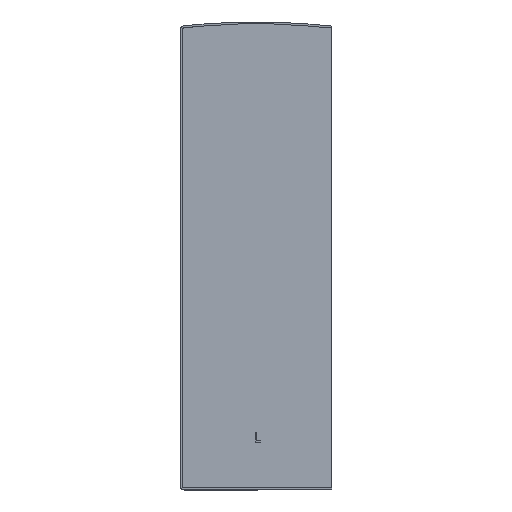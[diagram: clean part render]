
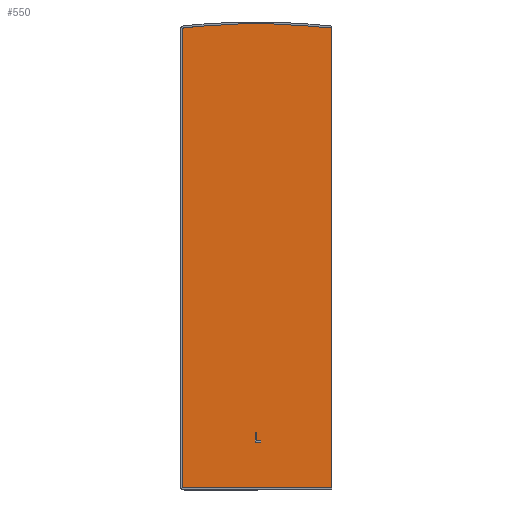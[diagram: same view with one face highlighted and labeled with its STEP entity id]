
A CAD part, top view. The second image highlights one B-rep face of the part: STEP entity #550.
In plain terms, the highlighted planar face has unit normal (0, 0, 1).
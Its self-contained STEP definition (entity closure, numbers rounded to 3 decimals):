
#14=FACE_BOUND('',#78,.T.);
#23=CIRCLE('',#600,304.053);
#31=CIRCLE('',#613,1.);
#32=CIRCLE('',#614,1.);
#48=FACE_OUTER_BOUND('',#77,.T.);
#77=EDGE_LOOP('',(#436,#437,#438,#439,#440,#441,#442,#443));
#78=EDGE_LOOP('',(#444,#445,#446,#447,#448,#449));
#98=LINE('',#795,#164);
#101=LINE('',#800,#167);
#103=LINE('',#804,#169);
#105=LINE('',#808,#171);
#107=LINE('',#812,#173);
#109=LINE('',#815,#175);
#126=LINE('',#856,#192);
#140=LINE('',#900,#206);
#141=LINE('',#902,#207);
#142=LINE('',#903,#208);
#143=LINE('',#907,#209);
#164=VECTOR('',#640,10.);
#167=VECTOR('',#645,10.);
#169=VECTOR('',#649,10.);
#171=VECTOR('',#653,10.);
#173=VECTOR('',#657,10.);
#175=VECTOR('',#661,10.);
#192=VECTOR('',#694,10.);
#206=VECTOR('',#730,10.);
#207=VECTOR('',#731,10.);
#208=VECTOR('',#732,10.);
#209=VECTOR('',#735,10.);
#230=VERTEX_POINT('',#793);
#231=VERTEX_POINT('',#794);
#232=VERTEX_POINT('',#799);
#233=VERTEX_POINT('',#803);
#234=VERTEX_POINT('',#807);
#235=VERTEX_POINT('',#811);
#248=VERTEX_POINT('',#846);
#249=VERTEX_POINT('',#848);
#251=VERTEX_POINT('',#854);
#269=VERTEX_POINT('',#898);
#270=VERTEX_POINT('',#899);
#271=VERTEX_POINT('',#901);
#272=VERTEX_POINT('',#904);
#273=VERTEX_POINT('',#906);
#282=EDGE_CURVE('',#230,#231,#98,.T.);
#285=EDGE_CURVE('',#231,#232,#101,.T.);
#287=EDGE_CURVE('',#232,#233,#103,.T.);
#289=EDGE_CURVE('',#233,#234,#105,.T.);
#291=EDGE_CURVE('',#234,#235,#107,.T.);
#293=EDGE_CURVE('',#235,#230,#109,.T.);
#309=EDGE_CURVE('',#248,#249,#23,.T.);
#313=EDGE_CURVE('',#251,#248,#126,.T.);
#334=EDGE_CURVE('',#269,#270,#140,.T.);
#335=EDGE_CURVE('',#271,#269,#141,.T.);
#336=EDGE_CURVE('',#249,#271,#142,.T.);
#337=EDGE_CURVE('',#272,#251,#31,.T.);
#338=EDGE_CURVE('',#273,#272,#143,.T.);
#339=EDGE_CURVE('',#270,#273,#32,.T.);
#436=ORIENTED_EDGE('',*,*,#334,.F.);
#437=ORIENTED_EDGE('',*,*,#335,.F.);
#438=ORIENTED_EDGE('',*,*,#336,.F.);
#439=ORIENTED_EDGE('',*,*,#309,.F.);
#440=ORIENTED_EDGE('',*,*,#313,.F.);
#441=ORIENTED_EDGE('',*,*,#337,.F.);
#442=ORIENTED_EDGE('',*,*,#338,.F.);
#443=ORIENTED_EDGE('',*,*,#339,.F.);
#444=ORIENTED_EDGE('',*,*,#282,.T.);
#445=ORIENTED_EDGE('',*,*,#285,.T.);
#446=ORIENTED_EDGE('',*,*,#287,.T.);
#447=ORIENTED_EDGE('',*,*,#289,.T.);
#448=ORIENTED_EDGE('',*,*,#291,.T.);
#449=ORIENTED_EDGE('',*,*,#293,.T.);
#524=PLANE('',#612);
#550=ADVANCED_FACE('',(#48,#14),#524,.F.);
#600=AXIS2_PLACEMENT_3D('',#849,#687,#688);
#612=AXIS2_PLACEMENT_3D('',#897,#728,#729);
#613=AXIS2_PLACEMENT_3D('',#905,#733,#734);
#614=AXIS2_PLACEMENT_3D('',#908,#736,#737);
#640=DIRECTION('',(0.,-1.,0.));
#645=DIRECTION('',(-1.,0.,0.));
#649=DIRECTION('',(0.,1.,0.));
#653=DIRECTION('',(1.,0.,0.));
#657=DIRECTION('',(0.,-1.,0.));
#661=DIRECTION('',(1.,0.,0.));
#687=DIRECTION('center_axis',(0.,0.,-1.));
#688=DIRECTION('ref_axis',(-0.087,-0.996,0.));
#694=DIRECTION('',(0.996,0.087,0.));
#728=DIRECTION('center_axis',(0.,0.,-1.));
#729=DIRECTION('ref_axis',(-1.,0.,0.));
#730=DIRECTION('',(-1.,0.,0.));
#731=DIRECTION('',(0.,-1.,0.));
#732=DIRECTION('',(0.996,-0.087,0.));
#733=DIRECTION('center_axis',(0.,0.,-1.));
#734=DIRECTION('ref_axis',(0.087,-0.996,0.));
#735=DIRECTION('',(0.,1.,0.));
#736=DIRECTION('center_axis',(0.,0.,-1.));
#737=DIRECTION('ref_axis',(1.,0.,0.));
#793=CARTESIAN_POINT('',(2.404,24.592,0.));
#794=CARTESIAN_POINT('',(2.404,24.,0.));
#795=CARTESIAN_POINT('',(2.404,71.046,0.));
#799=CARTESIAN_POINT('',(-0.494,24.,0.));
#800=CARTESIAN_POINT('',(1.202,24.,0.));
#803=CARTESIAN_POINT('',(-0.494,29.,0.));
#804=CARTESIAN_POINT('',(-0.494,70.75,0.));
#807=CARTESIAN_POINT('',(0.171,29.,0.));
#808=CARTESIAN_POINT('',(-0.247,29.,0.));
#811=CARTESIAN_POINT('',(0.171,24.592,0.));
#812=CARTESIAN_POINT('',(0.171,73.25,0.));
#815=CARTESIAN_POINT('',(0.085,24.592,0.));
#846=CARTESIAN_POINT('',(-26.5,232.843,0.));
#848=CARTESIAN_POINT('',(26.5,232.843,0.));
#849=CARTESIAN_POINT('Origin',(0.,-70.054,0.));
#854=CARTESIAN_POINT('',(-36.087,232.004,0.));
#856=CARTESIAN_POINT('',(-36.087,232.004,0.));
#897=CARTESIAN_POINT('Origin',(0.,117.5,0.));
#898=CARTESIAN_POINT('',(38.,1.,0.));
#899=CARTESIAN_POINT('',(-36.,1.,0.));
#900=CARTESIAN_POINT('',(38.,1.,0.));
#901=CARTESIAN_POINT('',(38.,231.836,0.));
#902=CARTESIAN_POINT('',(38.,232.84,0.));
#903=CARTESIAN_POINT('',(26.5,232.843,0.));
#904=CARTESIAN_POINT('',(-37.,231.008,0.));
#905=CARTESIAN_POINT('Origin',(-36.,231.008,0.));
#906=CARTESIAN_POINT('',(-37.,2.,0.));
#907=CARTESIAN_POINT('',(-37.,2.,0.));
#908=CARTESIAN_POINT('Origin',(-36.,2.,0.));
